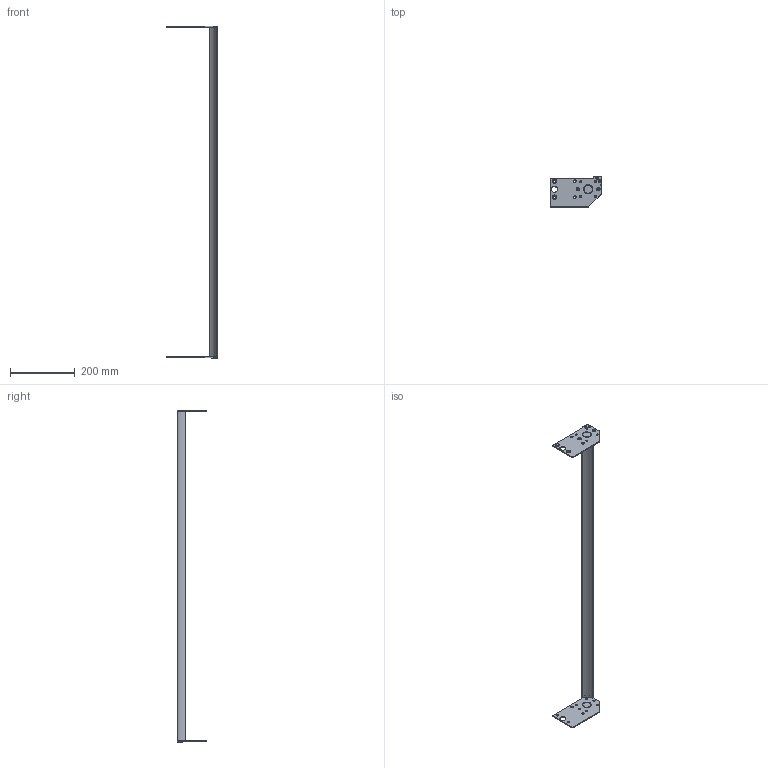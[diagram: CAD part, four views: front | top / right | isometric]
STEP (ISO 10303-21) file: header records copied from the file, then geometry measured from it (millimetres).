
FILE_DESCRIPTION((''),'2;1');
FILE_NAME('27M3300-38_ASM','2022-08-22T',('james.horst'),(''),'PRO/ENGINEER BY PARAMETRIC TECHNOLOGY CORPORATION, 2012420','PRO/ENGINEER BY PARAMETRIC TECHNOLOGY CORPORATION, 2012420','');
FILE_SCHEMA(('CONFIG_CONTROL_DESIGN'));
Length unit declared in the file: inch
Products named in the file (8): 350540_1_1; 350541_1_1; 930410M_1_1; 350539-36; 27M3300-10_ASM_1_ASM_1_ASM_1_ASM; 27M3300-30_ASM_1_ASM_1_ASM; 27M3300-36_ASM_1_ASM; 27M3300-38_ASM
Assembly tree (10 placements, depth 5):
  27M3300-38_ASM
    27M3300-36_ASM_1_ASM
      27M3300-30_ASM_1_ASM_1_ASM
        27M3300-10_ASM_1_ASM_1_ASM_1_ASM
          350540_1_1
          350541_1_1
          930410M_1_1  x4
          350539-36
Bounding box: 157.96 x 92.74 x 1028.34 mm (x, y, z)
Volume: 366472.4 mm3; surface area: 169595.6 mm2
Topology: 7 solids, 11 shells, 206 faces, 556 edges, 368 vertices
Faces by surface type: cylinder 96, plane 70, cone 40
Entity records: 5598 total; most frequent: DIRECTION 1034, CARTESIAN_POINT 953, ORIENTED_EDGE 868, EDGE_CURVE 442, AXIS2_PLACEMENT_3D 414, VERTEX_POINT 296, CIRCLE 230, EDGE_LOOP 220
